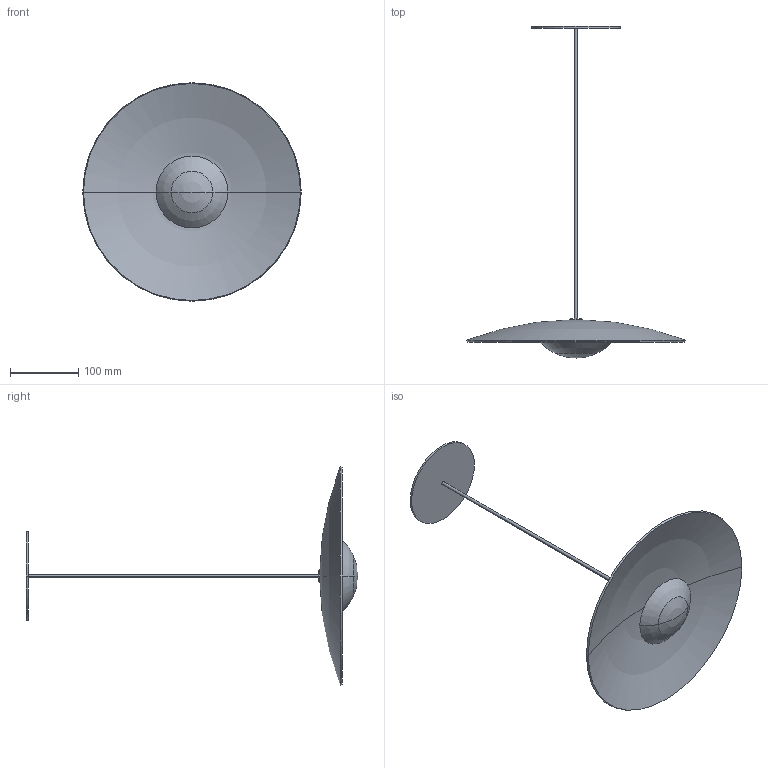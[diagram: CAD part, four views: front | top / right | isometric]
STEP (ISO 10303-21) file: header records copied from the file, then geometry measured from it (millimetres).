
FILE_DESCRIPTION((''),'2;1');
FILE_NAME('GINGER_32_ASM','2015-08-06T',('oftec4'),(''),'PRO/ENGINEER BY PARAMETRIC TECHNOLOGY CORPORATION, 2014000','PRO/ENGINEER BY PARAMETRIC TECHNOLOGY CORPORATION, 2014000','');
FILE_SCHEMA(('CONFIG_CONTROL_DESIGN'));
Length unit declared in the file: millimetre
Products named in the file (7): 662-001; 662-004; 662-003; 662-036; FLORON_GINGER; CABLE_GINGER; GINGER_32_ASM
Assembly tree (6 placements, depth 2):
  GINGER_32_ASM
    662-001
    662-004
    662-003
    662-036
    FLORON_GINGER
    CABLE_GINGER
Bounding box: 320 x 486 x 320 mm (x, y, z)
Volume: 406918.4 mm3; surface area: 224293.6 mm2
Topology: 6 solids, 6 shells, 41 faces, 80 edges, 46 vertices
Faces by surface type: cylinder 14, sphere 10, plane 9, torus 4, cone 4
Entity records: 1210 total; most frequent: DIRECTION 242, CARTESIAN_POINT 176, ORIENTED_EDGE 152, AXIS2_PLACEMENT_3D 112, EDGE_CURVE 76, CIRCLE 58, VERTEX_POINT 46, EDGE_LOOP 42
